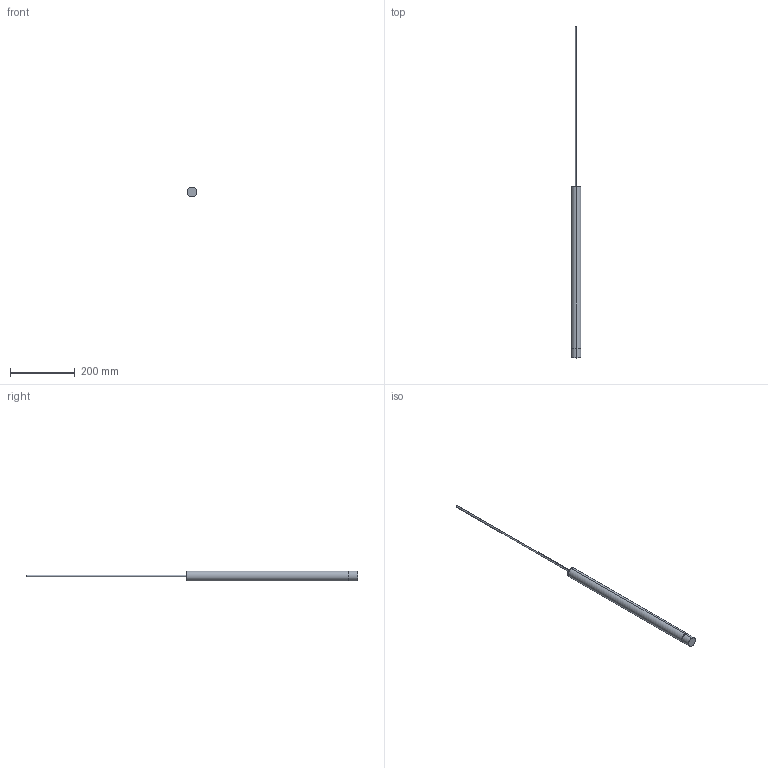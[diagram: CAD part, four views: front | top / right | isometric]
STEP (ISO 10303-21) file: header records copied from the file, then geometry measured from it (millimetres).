
FILE_DESCRIPTION (( 'STEP AP203' ), '1' );
FILE_NAME ('tob lines 50.STEP', '2022-11-21T00:11:27', ( '' ), ( '' ), 'SwSTEP 2.0', 'SolidWorks 2014', '' );
FILE_SCHEMA (( 'CONFIG_CONTROL_DESIGN' ));
Length unit declared in the file: millimetre
Products named in the file (1): tob lines 50
Bounding box: 30 x 1026 x 30 mm (x, y, z)
Volume: 361362.7 mm3; surface area: 74873.6 mm2
Topology: 3 solids, 3 shells, 33 faces, 62 edges, 36 vertices
Faces by surface type: torus 16, cylinder 10, plane 7
Entity records: 917 total; most frequent: DIRECTION 182, CARTESIAN_POINT 132, ORIENTED_EDGE 124, AXIS2_PLACEMENT_3D 86, EDGE_CURVE 62, CIRCLE 52, VERTEX_POINT 36, EDGE_LOOP 36
